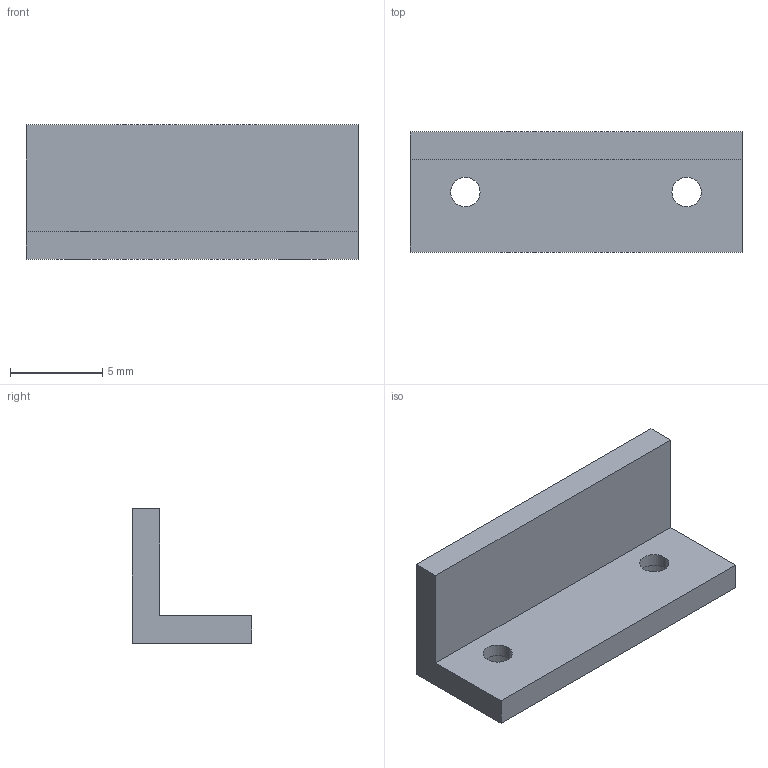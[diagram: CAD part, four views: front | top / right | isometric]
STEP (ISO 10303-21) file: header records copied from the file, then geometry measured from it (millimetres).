
FILE_DESCRIPTION (( 'STEP AP214' ), '1' );
FILE_NAME ('100342_Ver 0_Lid Cable manager LL854514.STEP', '2025-02-19T09:27:58', ( '' ), ( '' ), 'SwSTEP 2.0', 'SolidWorks 2021', '' );
FILE_SCHEMA (( 'AUTOMOTIVE_DESIGN' ));
Length unit declared in the file: millimetre
Products named in the file (1): 100342_Ver 0_Lid Cable manager LL854514
Bounding box: 18 x 6.5 x 7.3 mm (x, y, z)
Volume: 320.8 mm3; surface area: 545.8 mm2
Topology: 1 solids, 1 shells, 18 faces, 42 edges, 28 vertices
Faces by surface type: plane 10, cylinder 8
Entity records: 564 total; most frequent: DIRECTION 96, CARTESIAN_POINT 89, ORIENTED_EDGE 84, EDGE_CURVE 42, AXIS2_PLACEMENT_3D 35, VERTEX_POINT 28, VECTOR 26, LINE 26
